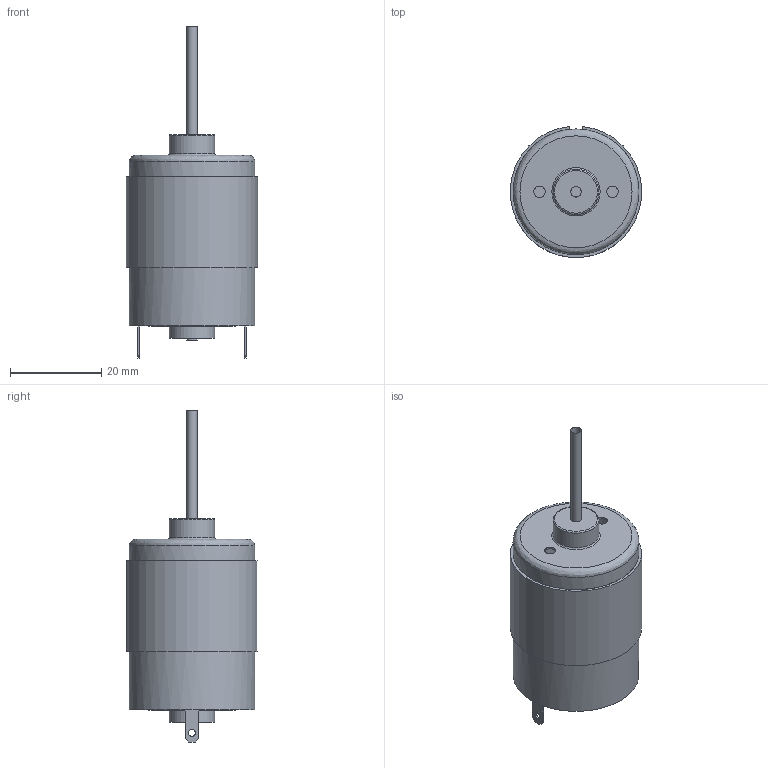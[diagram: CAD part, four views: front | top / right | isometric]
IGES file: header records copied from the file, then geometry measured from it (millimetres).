
Global section: file name: No Iges File Name specified; native system: AutoDesk Inventor R6.0; preprocessor: AutoDesk Inventor Iges Exporter R6.0; author: No Author specified; organization: No Organization specified; date: 20080105.182335; units: millimetre
Bounding box: 28.78 x 28.74 x 72.9 mm (x, y, z)
Surface area: 9324.2 mm2 (no closed solid volume)
Topology: 0 solids, 0 shells, 63 faces, 279 edges, 260 vertices
Faces by surface type: plane 31, revolution 24, bspline 8
